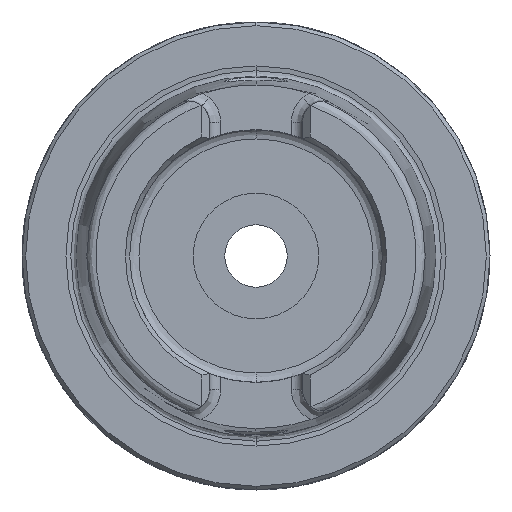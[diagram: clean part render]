
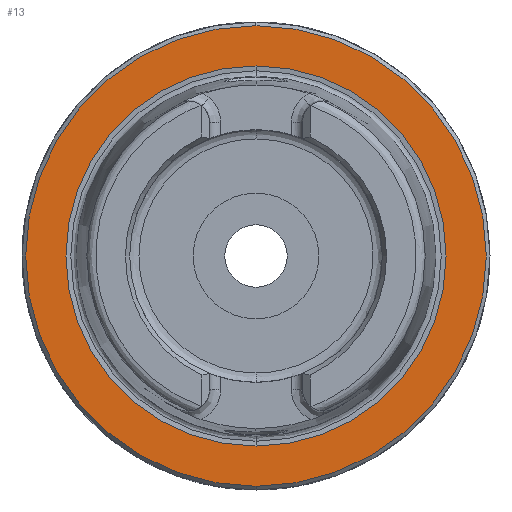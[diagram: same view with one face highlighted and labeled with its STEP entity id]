
A CAD part, left-side view. The second image highlights one B-rep face of the part: STEP entity #13.
In plain terms, the highlighted planar face has unit normal (-1, 0, 0).
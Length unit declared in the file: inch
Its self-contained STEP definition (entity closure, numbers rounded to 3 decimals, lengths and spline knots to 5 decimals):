
#13 = ADVANCED_FACE ( 'NONE', ( #1532, #244 ), #1414, .T. ) ;
#225 = EDGE_CURVE ( 'NONE', #7787, #6961, #5364, .T. ) ;
#244 = FACE_OUTER_BOUND ( 'NONE', #6156, .T. ) ;
#266 = ORIENTED_EDGE ( 'NONE', *, *, #225, .F. ) ;
#289 = CARTESIAN_POINT ( 'NONE',  ( 0., 0., 0. ) ) ;
#473 = EDGE_LOOP ( 'NONE', ( #1801, #932 ) ) ;
#525 = DIRECTION ( 'NONE',  ( 1., 0., 0. ) ) ;
#572 = DIRECTION ( 'NONE',  ( 0., 0., 1. ) ) ;
#692 = EDGE_CURVE ( 'NONE', #5661, #7718, #6734, .T. ) ;
#932 = ORIENTED_EDGE ( 'NONE', *, *, #2310, .T. ) ;
#1210 = CARTESIAN_POINT ( 'NONE',  ( 0., 0., -1.22047 ) ) ;
#1414 = PLANE ( 'NONE',  #7821 ) ;
#1440 = DIRECTION ( 'NONE',  ( 0., 0., 1. ) ) ;
#1532 = FACE_BOUND ( 'NONE', #473, .T. ) ;
#1801 = ORIENTED_EDGE ( 'NONE', *, *, #692, .T. ) ;
#1841 = CIRCLE ( 'NONE', #6345, 1.0074 ) ;
#2310 = EDGE_CURVE ( 'NONE', #7718, #5661, #1841, .T. ) ;
#2400 = CIRCLE ( 'NONE', #3739, 1.22047 ) ;
#2841 = CARTESIAN_POINT ( 'NONE',  ( 0., 1.22047, 0. ) ) ;
#3173 = AXIS2_PLACEMENT_3D ( 'NONE', #5297, #3947, #1440 ) ;
#3257 = DIRECTION ( 'NONE',  ( 0., 0., -1. ) ) ;
#3366 = DIRECTION ( 'NONE',  ( -1., 0., 0. ) ) ;
#3739 = AXIS2_PLACEMENT_3D ( 'NONE', #6446, #525, #3257 ) ;
#3947 = DIRECTION ( 'NONE',  ( 1., 0., 0. ) ) ;
#4176 = CARTESIAN_POINT ( 'NONE',  ( 0., 0., -1.0074 ) ) ;
#4740 = EDGE_CURVE ( 'NONE', #6961, #7787, #2400, .T. ) ;
#5130 = DIRECTION ( 'NONE',  ( 1., 0., 0. ) ) ;
#5297 = CARTESIAN_POINT ( 'NONE',  ( 0., 0., 0. ) ) ;
#5348 = ORIENTED_EDGE ( 'NONE', *, *, #4740, .F. ) ;
#5364 = CIRCLE ( 'NONE', #6708, 1.22047 ) ;
#5560 = DIRECTION ( 'NONE',  ( 0., 0., -1. ) ) ;
#5661 = VERTEX_POINT ( 'NONE', #6907 ) ;
#5769 = CARTESIAN_POINT ( 'NONE',  ( 0., 0., 0. ) ) ;
#6156 = EDGE_LOOP ( 'NONE', ( #266, #5348 ) ) ;
#6345 = AXIS2_PLACEMENT_3D ( 'NONE', #5769, #5130, #572 ) ;
#6446 = CARTESIAN_POINT ( 'NONE',  ( 0., 0., 0. ) ) ;
#6708 = AXIS2_PLACEMENT_3D ( 'NONE', #289, #7410, #5560 ) ;
#6734 = CIRCLE ( 'NONE', #3173, 1.0074 ) ;
#6907 = CARTESIAN_POINT ( 'NONE',  ( 0., 0., 1.0074 ) ) ;
#6961 = VERTEX_POINT ( 'NONE', #7296 ) ;
#7296 = CARTESIAN_POINT ( 'NONE',  ( 0., 0., 1.22047 ) ) ;
#7410 = DIRECTION ( 'NONE',  ( 1., 0., 0. ) ) ;
#7718 = VERTEX_POINT ( 'NONE', #4176 ) ;
#7787 = VERTEX_POINT ( 'NONE', #1210 ) ;
#7821 = AXIS2_PLACEMENT_3D ( 'NONE', #2841, #3366, #7973 ) ;
#7973 = DIRECTION ( 'NONE',  ( 0., 0., 1. ) ) ;
